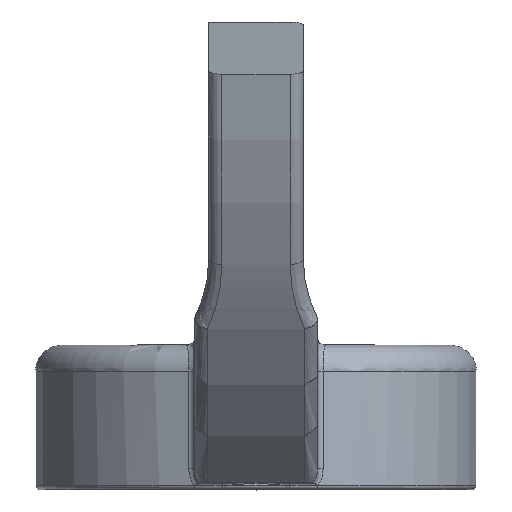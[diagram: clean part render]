
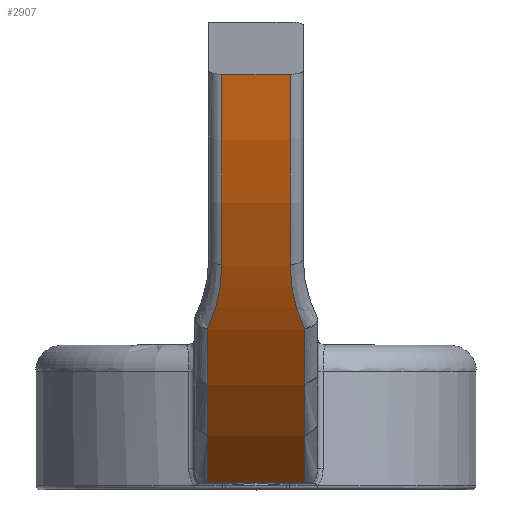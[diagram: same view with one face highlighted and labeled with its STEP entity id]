
A CAD part, top view. The second image highlights one B-rep face of the part: STEP entity #2907.
In plain terms, the highlighted cylindrical face has radius 26 mm (diameter 52 mm), a partial arc.
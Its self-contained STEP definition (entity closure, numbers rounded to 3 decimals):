
#152 = CARTESIAN_POINT ( 'NONE',  ( 1.85, 6.105, 13.77 ) ) ;
#258 = CARTESIAN_POINT ( 'NONE',  ( -1.85, 6.105, 13.77 ) ) ;
#263 = CARTESIAN_POINT ( 'NONE',  ( 1.3, 8.113, 14.986 ) ) ;
#294 = CIRCLE ( 'NONE', #2346, 26. ) ;
#390 = VECTOR ( 'NONE', #5609, 1000. ) ;
#517 = VERTEX_POINT ( 'NONE', #934 ) ;
#630 = ORIENTED_EDGE ( 'NONE', *, *, #7344, .T. ) ;
#643 = CARTESIAN_POINT ( 'NONE',  ( 2.35, 20.52, -7.868 ) ) ;
#686 = CARTESIAN_POINT ( 'NONE',  ( -1.67, 6.485, 14.023 ) ) ;
#718 = CARTESIAN_POINT ( 'NONE',  ( -1.3, 8.55, 15.213 ) ) ;
#744 = EDGE_CURVE ( 'NONE', #7050, #5027, #1007, .T. ) ;
#751 = CYLINDRICAL_SURFACE ( 'NONE', #3307, 26. ) ;
#828 = VERTEX_POINT ( 'NONE', #1199 ) ;
#829 = EDGE_CURVE ( 'NONE', #828, #6388, #1805, .T. ) ;
#934 = CARTESIAN_POINT ( 'NONE',  ( 0., 0.238, 8.4 ) ) ;
#939 = DIRECTION ( 'NONE',  ( -1., 0., 0. ) ) ;
#961 = CARTESIAN_POINT ( 'NONE',  ( 1.67, 6.485, 14.023 ) ) ;
#1007 = LINE ( 'NONE', #3274, #390 ) ;
#1010 = ORIENTED_EDGE ( 'NONE', *, *, #1020, .F. ) ;
#1015 = VECTOR ( 'NONE', #2689, 1000. ) ;
#1020 = EDGE_CURVE ( 'NONE', #1793, #2412, #2550, .T. ) ;
#1199 = CARTESIAN_POINT ( 'NONE',  ( 1.85, 0.238, 8.4 ) ) ;
#1222 = ORIENTED_EDGE ( 'NONE', *, *, #3978, .T. ) ;
#1343 = CARTESIAN_POINT ( 'NONE',  ( 2.35, 0.238, 8.4 ) ) ;
#1511 = CIRCLE ( 'NONE', #5767, 26. ) ;
#1564 = LINE ( 'NONE', #3756, #1015 ) ;
#1783 = ORIENTED_EDGE ( 'NONE', *, *, #744, .T. ) ;
#1785 = DIRECTION ( 'NONE',  ( 0., 0., 1. ) ) ;
#1793 = VERTEX_POINT ( 'NONE', #2507 ) ;
#1805 = LINE ( 'NONE', #6446, #3165 ) ;
#2346 = AXIS2_PLACEMENT_3D ( 'NONE', #2997, #7006, #2968 ) ;
#2373 = EDGE_CURVE ( 'NONE', #5991, #2412, #4513, .T. ) ;
#2394 = DIRECTION ( 'NONE',  ( -1., 0., 0. ) ) ;
#2412 = VERTEX_POINT ( 'NONE', #5406 ) ;
#2423 = CARTESIAN_POINT ( 'NONE',  ( 1.3, 8.55, 15.213 ) ) ;
#2507 = CARTESIAN_POINT ( 'NONE',  ( -1.3, 0.238, 8.4 ) ) ;
#2550 = LINE ( 'NONE', #1343, #7431 ) ;
#2689 = DIRECTION ( 'NONE',  ( -1., 0., 0. ) ) ;
#2694 = CARTESIAN_POINT ( 'NONE',  ( 1.349, 7.693, 14.753 ) ) ;
#2857 = EDGE_CURVE ( 'NONE', #7483, #5991, #4349, .T. ) ;
#2860 = VERTEX_POINT ( 'NONE', #2423 ) ;
#2907 = ADVANCED_FACE ( 'NONE', ( #5967 ), #751, .T. ) ;
#2957 = DIRECTION ( 'NONE',  ( 0., 0., -1. ) ) ;
#2961 = AXIS2_PLACEMENT_3D ( 'NONE', #4695, #2394, #2957 ) ;
#2968 = DIRECTION ( 'NONE',  ( 0., 0., -1. ) ) ;
#2997 = CARTESIAN_POINT ( 'NONE',  ( 1.85, 20.52, -7.868 ) ) ;
#3032 = DIRECTION ( 'NONE',  ( 1., 0., 0. ) ) ;
#3053 = ORIENTED_EDGE ( 'NONE', *, *, #4574, .F. ) ;
#3165 = VECTOR ( 'NONE', #4108, 1000. ) ;
#3274 = CARTESIAN_POINT ( 'NONE',  ( 2.35, 15.8, 17.7 ) ) ;
#3307 = AXIS2_PLACEMENT_3D ( 'NONE', #643, #6994, #1785 ) ;
#3595 = ORIENTED_EDGE ( 'NONE', *, *, #5232, .T. ) ;
#3756 = CARTESIAN_POINT ( 'NONE',  ( 2.35, 0.238, 8.4 ) ) ;
#3782 = CARTESIAN_POINT ( 'NONE',  ( 1.3, 0.238, 8.4 ) ) ;
#3978 = EDGE_CURVE ( 'NONE', #5350, #2860, #5527, .T. ) ;
#3983 = CARTESIAN_POINT ( 'NONE',  ( 1.3, 8.55, 15.213 ) ) ;
#4080 = EDGE_CURVE ( 'NONE', #2860, #7050, #6602, .T. ) ;
#4108 = DIRECTION ( 'NONE',  ( -1., 0., 0. ) ) ;
#4154 = CARTESIAN_POINT ( 'NONE',  ( -1.3, 8.113, 14.986 ) ) ;
#4163 = DIRECTION ( 'NONE',  ( 0., 0., -1. ) ) ;
#4198 = CARTESIAN_POINT ( 'NONE',  ( -1.85, 20.52, -7.868 ) ) ;
#4349 = B_SPLINE_CURVE_WITH_KNOTS ( 'NONE', 3,
 ( #718, #4154, #6495, #5227, #686, #5354 ),
 .UNSPECIFIED., .F., .F.,
 ( 4, 2, 4 ),
 ( 0., 0.001, 0.003 ),
 .UNSPECIFIED. ) ;
#4513 = CIRCLE ( 'NONE', #5391, 26. ) ;
#4574 = EDGE_CURVE ( 'NONE', #6388, #517, #7360, .T. ) ;
#4665 = DIRECTION ( 'NONE',  ( 0., 0., 1. ) ) ;
#4695 = CARTESIAN_POINT ( 'NONE',  ( 1.3, 20.52, -7.868 ) ) ;
#4722 = ORIENTED_EDGE ( 'NONE', *, *, #4080, .T. ) ;
#4788 = DIRECTION ( 'NONE',  ( -1., 0., 0. ) ) ;
#4829 = ORIENTED_EDGE ( 'NONE', *, *, #5950, .F. ) ;
#5027 = VERTEX_POINT ( 'NONE', #5082 ) ;
#5082 = CARTESIAN_POINT ( 'NONE',  ( -1.3, 15.8, 17.7 ) ) ;
#5227 = CARTESIAN_POINT ( 'NONE',  ( -1.534, 6.878, 14.271 ) ) ;
#5232 = EDGE_CURVE ( 'NONE', #828, #5350, #294, .T. ) ;
#5322 = DIRECTION ( 'NONE',  ( 1., 0., 0. ) ) ;
#5350 = VERTEX_POINT ( 'NONE', #152 ) ;
#5354 = CARTESIAN_POINT ( 'NONE',  ( -1.85, 6.105, 13.77 ) ) ;
#5391 = AXIS2_PLACEMENT_3D ( 'NONE', #4198, #3032, #4163 ) ;
#5406 = CARTESIAN_POINT ( 'NONE',  ( -1.85, 0.238, 8.4 ) ) ;
#5423 = EDGE_LOOP ( 'NONE', ( #7480, #5882, #1010, #4829, #3053, #6344, #3595, #1222, #4722, #1783, #630 ) ) ;
#5483 = CARTESIAN_POINT ( 'NONE',  ( 1.534, 6.879, 14.271 ) ) ;
#5527 = B_SPLINE_CURVE_WITH_KNOTS ( 'NONE', 3,
 ( #6734, #961, #5483, #2694, #263, #3983 ),
 .UNSPECIFIED., .F., .F.,
 ( 4, 2, 4 ),
 ( 0., 0.001, 0.003 ),
 .UNSPECIFIED. ) ;
#5609 = DIRECTION ( 'NONE',  ( -1., 0., 0. ) ) ;
#5759 = CARTESIAN_POINT ( 'NONE',  ( 1.3, 15.8, 17.7 ) ) ;
#5767 = AXIS2_PLACEMENT_3D ( 'NONE', #5868, #5322, #4665 ) ;
#5868 = CARTESIAN_POINT ( 'NONE',  ( -1.3, 20.52, -7.868 ) ) ;
#5882 = ORIENTED_EDGE ( 'NONE', *, *, #2373, .T. ) ;
#5950 = EDGE_CURVE ( 'NONE', #517, #1793, #1564, .T. ) ;
#5967 = FACE_OUTER_BOUND ( 'NONE', #5423, .T. ) ;
#5991 = VERTEX_POINT ( 'NONE', #258 ) ;
#6015 = CARTESIAN_POINT ( 'NONE',  ( -1.3, 8.55, 15.213 ) ) ;
#6222 = CARTESIAN_POINT ( 'NONE',  ( 2.35, 0.238, 8.4 ) ) ;
#6255 = VECTOR ( 'NONE', #939, 1000. ) ;
#6344 = ORIENTED_EDGE ( 'NONE', *, *, #829, .F. ) ;
#6388 = VERTEX_POINT ( 'NONE', #3782 ) ;
#6446 = CARTESIAN_POINT ( 'NONE',  ( 2.35, 0.238, 8.4 ) ) ;
#6495 = CARTESIAN_POINT ( 'NONE',  ( -1.349, 7.692, 14.752 ) ) ;
#6602 = CIRCLE ( 'NONE', #2961, 26. ) ;
#6734 = CARTESIAN_POINT ( 'NONE',  ( 1.85, 6.105, 13.77 ) ) ;
#6994 = DIRECTION ( 'NONE',  ( -1., 0., 0. ) ) ;
#7006 = DIRECTION ( 'NONE',  ( -1., 0., 0. ) ) ;
#7050 = VERTEX_POINT ( 'NONE', #5759 ) ;
#7344 = EDGE_CURVE ( 'NONE', #5027, #7483, #1511, .T. ) ;
#7360 = LINE ( 'NONE', #6222, #6255 ) ;
#7431 = VECTOR ( 'NONE', #4788, 1000. ) ;
#7480 = ORIENTED_EDGE ( 'NONE', *, *, #2857, .T. ) ;
#7483 = VERTEX_POINT ( 'NONE', #6015 ) ;
